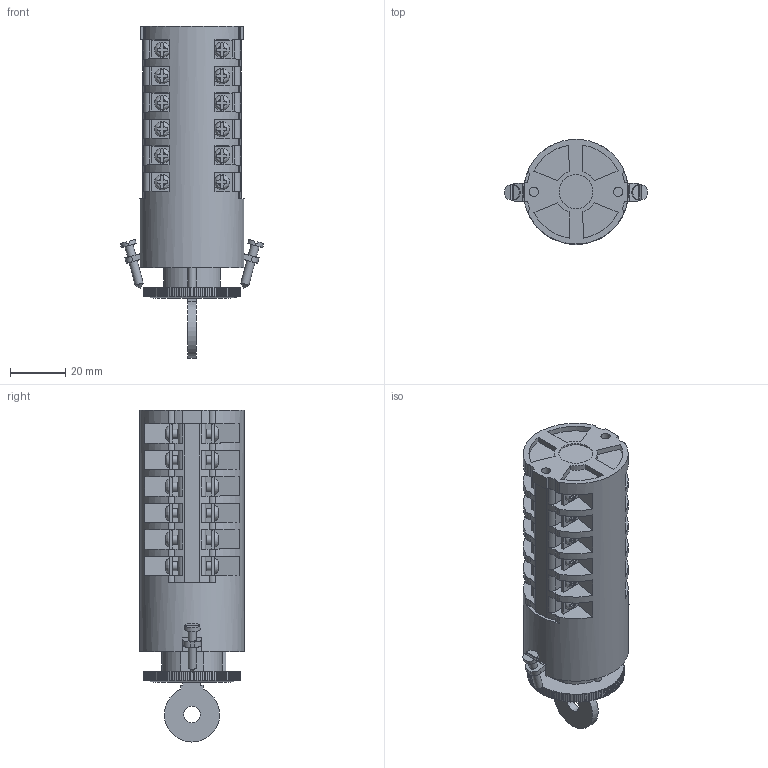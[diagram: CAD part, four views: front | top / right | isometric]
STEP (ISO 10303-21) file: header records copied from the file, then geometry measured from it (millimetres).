
FILE_DESCRIPTION(/* description */ (''),/* implementation_level */ '2;1');
FILE_NAME(/* name */ '4G10-U_wykonanie_S10_6_korpusow.stp',/* time_stamp */ '2021-07-21T08:23:57+02:00',/* author */ (''),/* organization */ (''),/* preprocessor_version */ 'ST-DEVELOPER v18.1',/* originating_system */ 'SIEMENS PLM Software NX 1965',/* authorisation */ '');
FILE_SCHEMA (('AUTOMOTIVE_DESIGN { 1 0 10303 214 3 1 1 1 }'));
Length unit declared in the file: millimetre
Products named in the file (1): 4G10-U_wykonanie_S10_6_korpusow_stp
Bounding box: 51.98 x 38 x 120.28 mm (x, y, z)
Volume: 90699.8 mm3; surface area: 26645.3 mm2
Topology: 1 solids, 3 shells, 1151 faces, 3261 edges, 2180 vertices
Faces by surface type: plane 917, cylinder 204, bspline 24, cone 4, torus 2
Full cylindrical faces by diameter (mm): 3 x4, 3.2 x24, 3.4 x4, 5.5 x2, 5.6 x2, 6 x1, 12.3 x1, 15.8 x1, 16.1 x1, 38 x1
Entity records: 37244 total; most frequent: CARTESIAN_POINT 8030, ORIENTED_EDGE 6254, DIRECTION 5762, EDGE_CURVE 3127, VERTEX_POINT 2119, LINE 2092, VECTOR 2092, AXIS2_PLACEMENT_3D 1835
